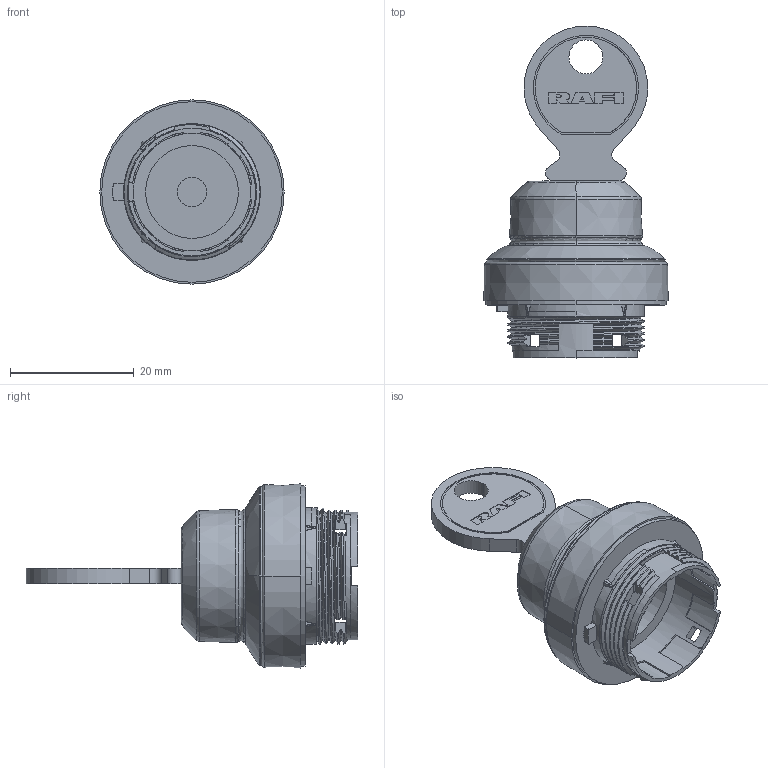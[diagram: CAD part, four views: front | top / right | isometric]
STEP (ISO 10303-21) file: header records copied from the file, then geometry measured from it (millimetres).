
FILE_DESCRIPTION((''),'2;1');
FILE_NAME('CAD_3D_RAFIX-22-FS-130275XXX-RD','2022-03-24T08:28:42',('H0101330'),(''),'CREO PARAMETRIC BY PTC INC, 2018500','CREO PARAMETRIC BY PTC INC, 2018500','');
FILE_SCHEMA(('AUTOMOTIVE_DESIGN { 1 0 10303 214 1 1 1 1 }'));
Length unit declared in the file: millimetre
Products named in the file (1): CAD_3D_RAFIX-22-FS-130275XXX-RD
Bounding box: 29.8 x 53.65 x 29.8 mm (x, y, z)
Volume: 10104.5 mm3; surface area: 5298.9 mm2
Topology: 1 solids, 1 shells, 640 faces, 1849 edges, 1240 vertices
Faces by surface type: plane 454, cylinder 98, bspline 50, torus 20, cone 18
Entity records: 24504 total; most frequent: CARTESIAN_POINT 7775, ORIENTED_EDGE 3698, DIRECTION 3044, EDGE_CURVE 1849, VECTOR 1274, LINE 1274, VERTEX_POINT 1240, AXIS2_PLACEMENT_3D 885
